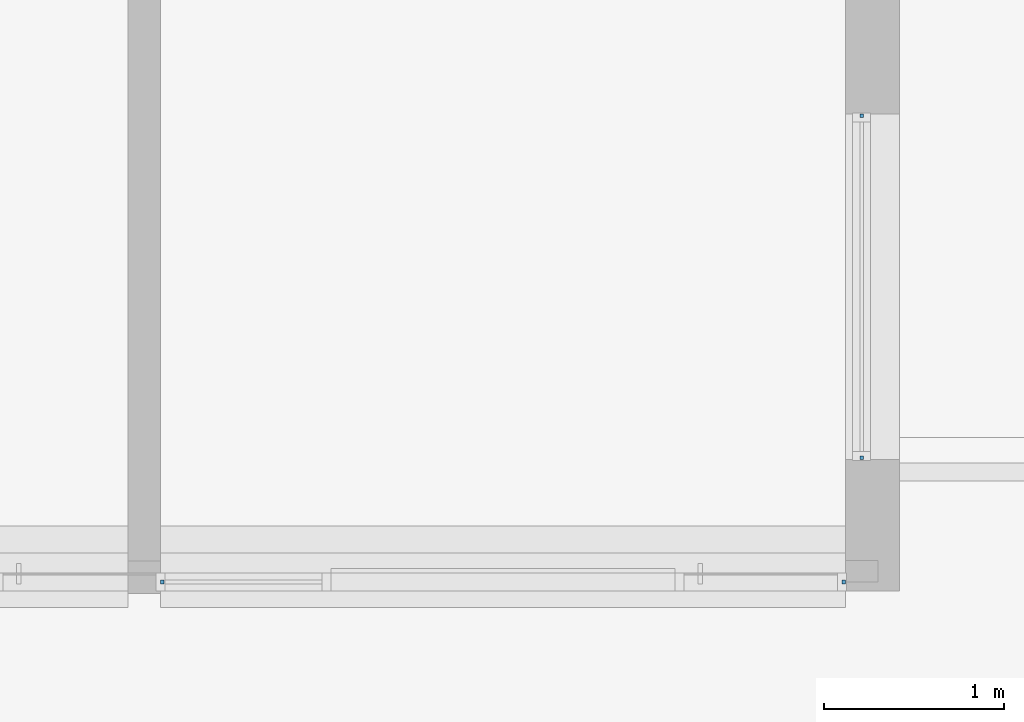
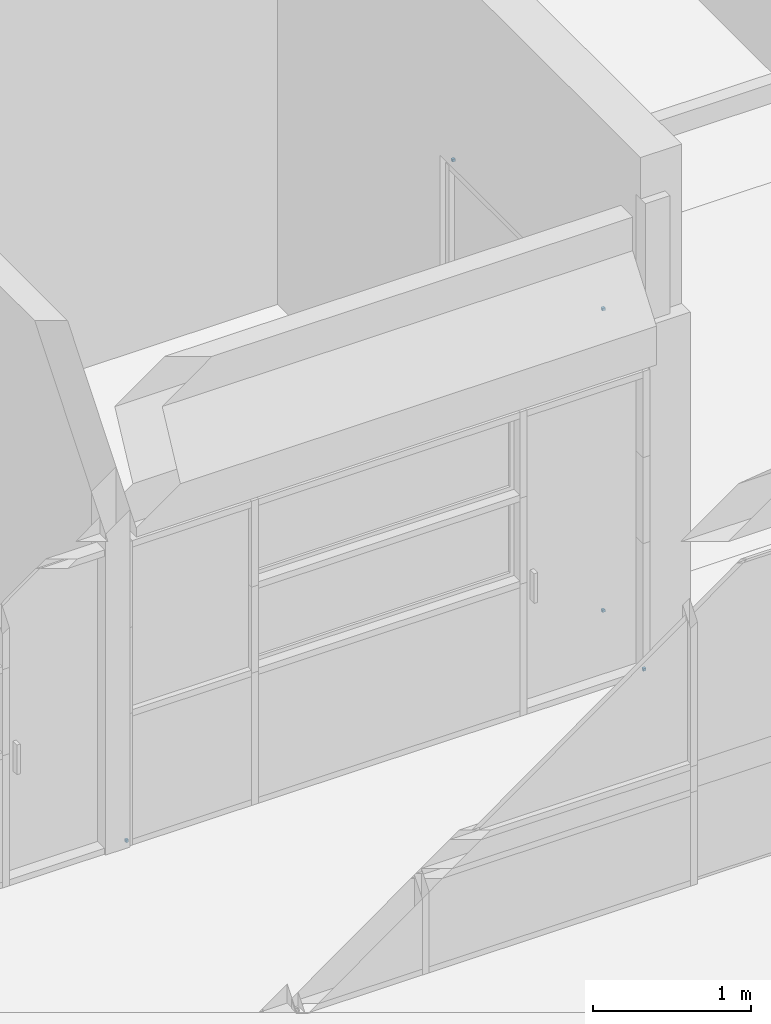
# One storey, part 61 of 117: 5 plates, 3 elements without a shape of their own.
"""IFC4 building model written with IfcOpenShell, lengths in metres."""

from ifc_helpers import new_model, entity, si_unit, converted_unit, derived_unit, direction, frame, origin, place, context, subcontext, project, spatial, indexed_curve, outline, extrude, source, transform, mapped, material, type_object, type_shapes, element, aggregate, save


model = new_model("IFC4")

# Units and contexts
model_context = context("Model", 3, precision=1e-05, world=origin(), true_north=direction((6.123031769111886e-17, 1.0)))
body_context = subcontext(model_context, "Body", "Model", "MODEL_VIEW")
ifc_project = project(units=[si_unit("LENGTHUNIT", "METRE"), si_unit("AREAUNIT", "SQUARE_METRE"), si_unit("VOLUMEUNIT", "CUBIC_METRE"), converted_unit("PLANEANGLEUNIT", "DEGREE", entity("IfcRatioMeasure", 0.017453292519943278), si_unit("PLANEANGLEUNIT", "RADIAN"), dimensions=[0, 0, 0, 0, 0, 0, 0]), si_unit("MASSUNIT", "GRAM", prefix="KILO"), derived_unit("MASSDENSITYUNIT", [(si_unit("MASSUNIT", "GRAM", prefix="KILO"), 1), (si_unit("LENGTHUNIT", "METRE"), -3)]), derived_unit("MOMENTOFINERTIAUNIT", [(si_unit("LENGTHUNIT", "METRE"), 4)]), si_unit("TIMEUNIT", "SECOND"), si_unit("FREQUENCYUNIT", "HERTZ"), si_unit("THERMODYNAMICTEMPERATUREUNIT", "DEGREE_CELSIUS"), derived_unit("THERMALTRANSMITTANCEUNIT", [(si_unit("MASSUNIT", "GRAM", prefix="KILO"), 1), (si_unit("THERMODYNAMICTEMPERATUREUNIT", "KELVIN"), -1), (si_unit("TIMEUNIT", "SECOND"), -3)]), derived_unit("VOLUMETRICFLOWRATEUNIT", [(si_unit("LENGTHUNIT", "METRE"), 3), (si_unit("TIMEUNIT", "SECOND"), -1)]), derived_unit("MASSFLOWRATEUNIT", [(si_unit("MASSUNIT", "GRAM", prefix="KILO"), 1), (si_unit("TIMEUNIT", "SECOND"), -1)]), derived_unit("ROTATIONALFREQUENCYUNIT", [(si_unit("TIMEUNIT", "SECOND"), -1)]), si_unit("ELECTRICCURRENTUNIT", "AMPERE"), si_unit("ELECTRICVOLTAGEUNIT", "VOLT"), si_unit("POWERUNIT", "WATT"), si_unit("FORCEUNIT", "NEWTON", prefix="KILO"), si_unit("ILLUMINANCEUNIT", "LUX"), si_unit("LUMINOUSFLUXUNIT", "LUMEN"), si_unit("LUMINOUSINTENSITYUNIT", "CANDELA"), derived_unit("USERDEFINED", [(si_unit("MASSUNIT", "GRAM", prefix="KILO"), -1), (si_unit("LENGTHUNIT", "METRE"), -2), (si_unit("TIMEUNIT", "SECOND"), 3), (si_unit("LUMINOUSFLUXUNIT", "LUMEN"), 1)]), derived_unit("SOUNDPOWERUNIT", [(si_unit("MASSUNIT", "GRAM", prefix="KILO"), 1), (si_unit("LENGTHUNIT", "METRE"), 2), (si_unit("TIMEUNIT", "SECOND"), -3)]), derived_unit("SOUNDPRESSUREUNIT", [(si_unit("MASSUNIT", "GRAM", prefix="KILO"), 1), (si_unit("LENGTHUNIT", "METRE"), -1), (si_unit("TIMEUNIT", "SECOND"), -2)]), derived_unit("LINEARVELOCITYUNIT", [(si_unit("LENGTHUNIT", "METRE"), 1), (si_unit("TIMEUNIT", "SECOND"), -1)]), si_unit("PRESSUREUNIT", "PASCAL"), derived_unit("USERDEFINED", [(si_unit("LENGTHUNIT", "METRE"), -2), (si_unit("MASSUNIT", "GRAM", prefix="KILO"), 1), (si_unit("TIMEUNIT", "SECOND"), -2)]), derived_unit("LINEARFORCEUNIT", [(si_unit("MASSUNIT", "GRAM", prefix="KILO"), 1), (si_unit("LENGTHUNIT", "METRE"), 1), (si_unit("TIMEUNIT", "SECOND"), -2), (si_unit("LENGTHUNIT", "METRE"), -1)]), derived_unit("PLANARFORCEUNIT", [(si_unit("MASSUNIT", "GRAM", prefix="KILO"), 1), (si_unit("LENGTHUNIT", "METRE"), 1), (si_unit("TIMEUNIT", "SECOND"), -2), (si_unit("LENGTHUNIT", "METRE"), -2)])], contexts=[model_context])

# Site, building, storey
site_placement = place(None, origin())
site = spatial("IfcSite", under=ifc_project, at=site_placement, Name="Superficie", CompositionType="ELEMENT")
building_placement = place(site_placement, origin())
building = spatial("IfcBuilding", under=site, at=building_placement, CompositionType="ELEMENT")
storey_placement = place(building_placement, origin())
storey = spatial("IfcBuildingStorey", under=building, at=storey_placement, Name="Nivel 0", CompositionType="ELEMENT", Elevation=0.0)

# Curtain wall, plate
curtain_wall_type = type_object("IfcCurtainWallType", Name="Muro cortina:Muro cortina - simple", PredefinedType="NOTDEFINED")
curtain_wall_1_placement = place(storey_placement, origin())
curtain_wall_1 = element("IfcCurtainWall", 1, at=curtain_wall_1_placement, inside=storey, type_object=curtain_wall_type, Name="Muro cortina:Muro cortina - simple", ObjectType="Muro cortina:Muro cortina - simple", PredefinedType="NOTDEFINED")
ifc_material = material(Name="Cristal", Category="Vidrio")
plate_type = type_object("IfcPlateType", Name="Panel de sistema:Acristalado", PredefinedType="CURTAIN_PANEL", material=ifc_material)
shared_shape = source(origin(), body_context, "Body", "SweptSolid", [
    extrude(outline(indexed_curve([(-0.01, -0.009999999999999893), (0.01, -0.009999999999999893), (0.01, 0.009999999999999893), (-0.01, 0.009999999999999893), (-0.01, -0.009999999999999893)], self_intersect=False)), frame((0.0, 0.0, 0.0), z_axis=(0.0, 0.0, 1.0), x_axis=(0.0, 1.0, 0.0)), (0.0, 0.0, 1.0), 0.02000000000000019),
])
type_shapes(plate_type, [shared_shape])
plate_1_placement = place(curtain_wall_1_placement, frame((-7.243666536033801, 5.715829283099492, 0.0)))
plate_1 = element("IfcPlate", 2, at=plate_1_placement, type_object=plate_type, material=ifc_material, Name="Panel de sistema:Acristalado", ObjectType="Panel de sistema:Acristalado", PredefinedType="CURTAIN_PANEL", context=body_context, shape_type="MappedRepresentation", body=[
    mapped(shared_shape, transform((0.0, 0.0, 0.0), scale=1.0)),
])
aggregate(curtain_wall_1, [plate_1])

curtain_wall_2_placement = place(storey_placement, origin())
curtain_wall_2 = element("IfcCurtainWall", 3, at=curtain_wall_2_placement, inside=storey, type_object=curtain_wall_type, Name="Muro cortina:Muro cortina - simple", ObjectType="Muro cortina:Muro cortina - simple", PredefinedType="NOTDEFINED")
plate_2_placement = place(curtain_wall_2_placement, frame((-3.463200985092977, 5.715829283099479, 0.0)))
plate_2 = element("IfcPlate", 4, at=plate_2_placement, type_object=plate_type, material=ifc_material, Name="Panel de sistema:Acristalado", ObjectType="Panel de sistema:Acristalado", PredefinedType="CURTAIN_PANEL", context=body_context, shape_type="MappedRepresentation", body=[
    mapped(shared_shape, transform((0.0, 0.0, 0.0), scale=1.0)),
])
aggregate(curtain_wall_2, [plate_2])

# Curtain wall, plates
curtain_wall_3_placement = place(storey_placement, origin())
curtain_wall_3 = element("IfcCurtainWall", 5, at=curtain_wall_3_placement, inside=storey, type_object=curtain_wall_type, Name="Muro cortina:Muro cortina - simple", ObjectType="Muro cortina:Muro cortina - simple", PredefinedType="NOTDEFINED")
plate_3_placement = place(curtain_wall_3_placement, frame((-3.363200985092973, 6.405829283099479, 0.0), z_axis=(0.0, 0.0, 1.0), x_axis=(0.0, -1.0, 0.0)))
plate_3 = element("IfcPlate", 6, at=plate_3_placement, type_object=plate_type, material=ifc_material, Name="Panel de sistema:Acristalado", ObjectType="Panel de sistema:Acristalado", PredefinedType="CURTAIN_PANEL", context=body_context, shape_type="MappedRepresentation", body=[
    mapped(shared_shape, transform((0.0, 0.0, 0.0), scale=1.0)),
])
plate_4_placement = place(curtain_wall_3_placement, frame((-3.3632009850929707, 8.303063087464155, 2.33), z_axis=(0.0, 0.0, 1.0), x_axis=(0.0, -1.0, 0.0)))
plate_4 = element("IfcPlate", 7, at=plate_4_placement, type_object=plate_type, material=ifc_material, Name="Panel de sistema:Acristalado", ObjectType="Panel de sistema:Acristalado", PredefinedType="CURTAIN_PANEL", context=body_context, shape_type="MappedRepresentation", body=[
    mapped(shared_shape, transform((0.0, 0.0, 0.0), scale=1.0)),
])
plate_5_placement = place(curtain_wall_3_placement, frame((-3.363200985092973, 6.405829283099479, 2.33), z_axis=(0.0, 0.0, 1.0), x_axis=(0.0, -1.0, 0.0)))
plate_5 = element("IfcPlate", 8, at=plate_5_placement, type_object=plate_type, material=ifc_material, Name="Panel de sistema:Acristalado", ObjectType="Panel de sistema:Acristalado", PredefinedType="CURTAIN_PANEL", context=body_context, shape_type="MappedRepresentation", body=[
    mapped(shared_shape, transform((0.0, 0.0, 0.0), scale=1.0)),
])
aggregate(curtain_wall_3, [plate_3, plate_4, plate_5])

save(model, "model.ifc")
